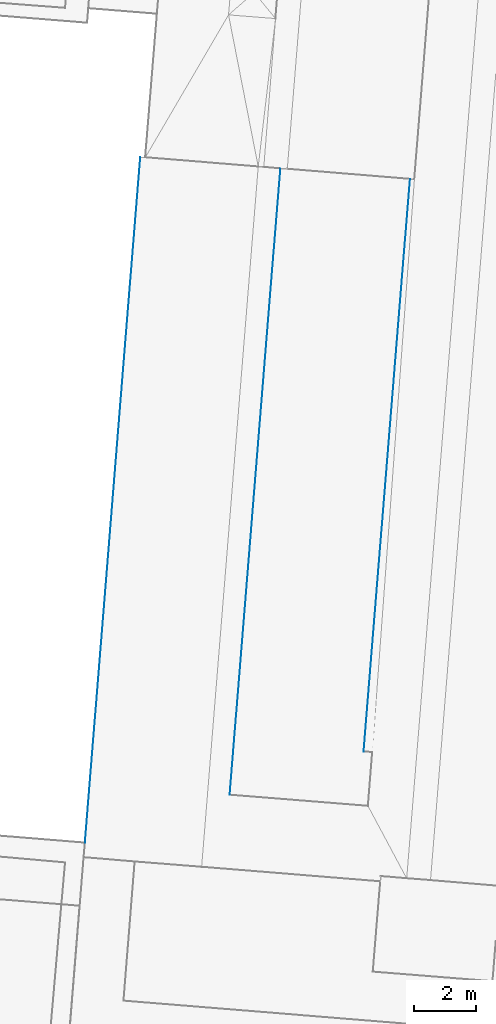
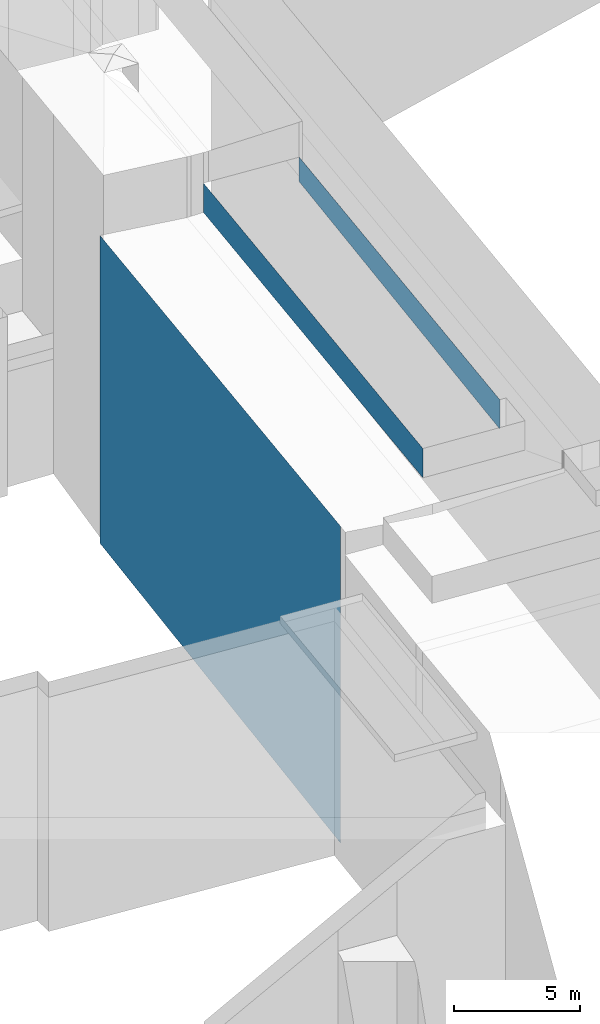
# Not in any storey, part 73 of 136: 3 walls.
"""IFC4 building model written with IfcOpenShell, lengths in metres."""

from ifc_helpers import new_model, entity, si_unit, converted_unit, origin, place, context, subcontext, project, spatial, face_set, surface_model, element, save


model = new_model("IFC4")

# Units and contexts
model_context = context("Model", 3, precision=1e-05, world=origin())
body_context = subcontext(model_context, "Body", "Model", "MODEL_VIEW")
ifc_project = project(units=[converted_unit("PLANEANGLEUNIT", "DEGREE", entity("IfcRatioMeasure", 0.0174532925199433), si_unit("PLANEANGLEUNIT", "RADIAN"), dimensions=[0, 0, 0, 0, 0, 0, 0]), si_unit("AREAUNIT", "SQUARE_METRE"), si_unit("LENGTHUNIT", "METRE")], contexts=[model_context])

# Site, building
site_placement = place(None, origin())
site = spatial("IfcSite", under=ifc_project, at=site_placement, Name="_site")
building_placement = place(site_placement, origin())
building = spatial("IfcBuilding", under=site, at=building_placement, Name="_building")

# Walls
wall_1_placement = place(building_placement, origin())
element("IfcWall", 1, at=wall_1_placement, inside=building, Name="Wall", PredefinedType="NOTDEFINED", context=body_context, shape_type="SurfaceModel", body=[
    surface_model("IfcFaceBasedSurfaceModel", [(213.13, 66.13, 53.35), (214.92, 88.3, 53.35), (214.92, 88.3, 38.44), (213.13, 66.13, 38.0)], [face_set([[[0, 1, 2, 3]]])]),
])
wall_2_placement = place(building_placement, origin())
element("IfcWall", 2, at=wall_2_placement, inside=building, Name="Wall", PredefinedType="NOTDEFINED", context=body_context, shape_type="SurfaceModel", body=[
    surface_model("IfcFaceBasedSurfaceModel", [(223.64, 87.59, 54.52), (222.14, 69.08, 54.52), (222.14, 69.08, 53.1), (223.64, 87.59, 53.33)], [face_set([[[0, 1, 2, 3]]])]),
])
wall_3_placement = place(building_placement, origin())
element("IfcWall", 3, at=wall_3_placement, inside=building, Name="Wall", PredefinedType="NOTDEFINED", context=body_context, shape_type="SurfaceModel", body=[
    surface_model("IfcFaceBasedSurfaceModel", [(217.81, 67.68, 54.52), (219.45, 87.93, 54.52), (219.45, 87.93, 53.1), (217.81, 67.68, 53.1)], [face_set([[[0, 1, 2, 3]]])]),
])

save(model, "model.ifc")
